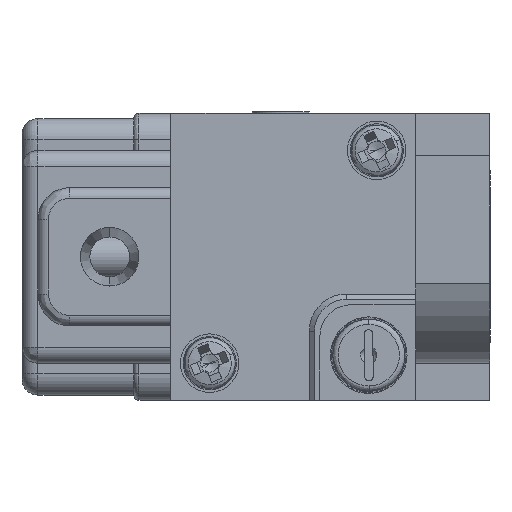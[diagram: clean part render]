
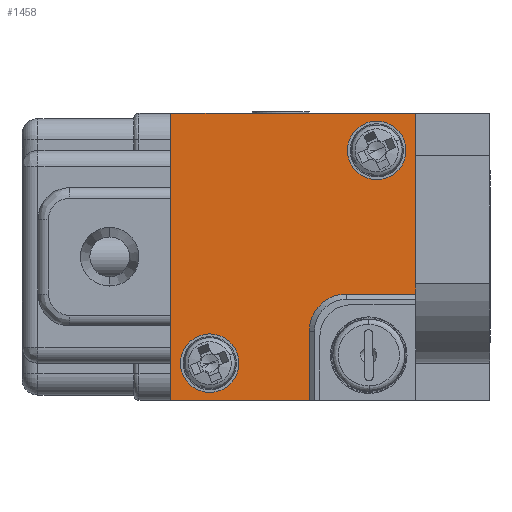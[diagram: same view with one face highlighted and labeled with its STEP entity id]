
A CAD part, left-side view. The second image highlights one B-rep face of the part: STEP entity #1458.
In plain terms, the highlighted planar face has unit normal (-1, 0, 0) as drawn and (0, 0, 1) by its records, which use the part's own axes.
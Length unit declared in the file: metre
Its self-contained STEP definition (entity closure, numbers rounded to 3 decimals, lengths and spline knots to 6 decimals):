
#211 = ORIENTED_EDGE ( 'NONE', *, *, #7012, .T. ) ;
#223 = DIRECTION ( 'NONE',  ( 0., -1., 0. ) ) ;
#230 = EDGE_CURVE ( 'NONE', #12460, #11134, #12202, .T. ) ;
#288 = DIRECTION ( 'NONE',  ( 0., 0., -1. ) ) ;
#761 = VERTEX_POINT ( 'NONE', #13373 ) ;
#784 = VECTOR ( 'NONE', #4219, 1. ) ;
#1019 = EDGE_CURVE ( 'NONE', #5869, #12460, #13477, .T. ) ;
#1125 = ORIENTED_EDGE ( 'NONE', *, *, #1019, .T. ) ;
#1458 = ADVANCED_FACE ( 'NONE', ( #5796, #8605, #3301 ), #3003, .T. ) ;
#1618 = ORIENTED_EDGE ( 'NONE', *, *, #5587, .T. ) ;
#1730 = LINE ( 'NONE', #13488, #7028 ) ;
#1744 = CIRCLE ( 'NONE', #12484, 0.00275 ) ;
#1819 = VECTOR ( 'NONE', #4242, 1. ) ;
#1946 = AXIS2_PLACEMENT_3D ( 'NONE', #4839, #4854, #4879 ) ;
#2242 = ORIENTED_EDGE ( 'NONE', *, *, #230, .T. ) ;
#2720 = CARTESIAN_POINT ( 'NONE',  ( -0.0035, 0.0325, 0.006 ) ) ;
#2840 = CARTESIAN_POINT ( 'NONE',  ( 0.0135, 0.021, 0.006 ) ) ;
#3003 = PLANE ( 'NONE',  #3968 ) ;
#3029 = CARTESIAN_POINT ( 'NONE',  ( -0.00725, 0.04035, 0.006 ) ) ;
#3146 = DIRECTION ( 'NONE',  ( 0., 0., 1. ) ) ;
#3233 = CARTESIAN_POINT ( 'NONE',  ( 0., 0.021, 0.006 ) ) ;
#3290 = DIRECTION ( 'NONE',  ( 0., 0., -1. ) ) ;
#3301 = FACE_OUTER_BOUND ( 'NONE', #9353, .T. ) ;
#3302 = ORIENTED_EDGE ( 'NONE', *, *, #8427, .T. ) ;
#3338 = DIRECTION ( 'NONE',  ( 1., 0., 0. ) ) ;
#3438 = CARTESIAN_POINT ( 'NONE',  ( -0.007, 0.031, 0.006 ) ) ;
#3445 = ORIENTED_EDGE ( 'NONE', *, *, #12925, .F. ) ;
#3705 = CARTESIAN_POINT ( 'NONE',  ( -0.0135, 0.044, 0.006 ) ) ;
#3968 = AXIS2_PLACEMENT_3D ( 'NONE', #7457, #9715, #3338 ) ;
#3986 = LINE ( 'NONE', #8446, #784 ) ;
#4168 = EDGE_CURVE ( 'NONE', #8955, #4835, #12285, .T. ) ;
#4219 = DIRECTION ( 'NONE',  ( 0., 1., 0. ) ) ;
#4242 = DIRECTION ( 'NONE',  ( 1., 0., 0. ) ) ;
#4400 = VECTOR ( 'NONE', #11241, 1. ) ;
#4699 = ORIENTED_EDGE ( 'NONE', *, *, #12046, .T. ) ;
#4733 = LINE ( 'NONE', #2720, #4400 ) ;
#4835 = VERTEX_POINT ( 'NONE', #12802 ) ;
#4839 = CARTESIAN_POINT ( 'NONE',  ( -0.01, 0.04035, 0.006 ) ) ;
#4854 = DIRECTION ( 'NONE',  ( 0., 0., 1. ) ) ;
#4879 = DIRECTION ( 'NONE',  ( 1., 0., 0. ) ) ;
#5273 = ORIENTED_EDGE ( 'NONE', *, *, #9875, .T. ) ;
#5353 = VECTOR ( 'NONE', #10664, 1. ) ;
#5587 = EDGE_CURVE ( 'NONE', #761, #6121, #13723, .T. ) ;
#5796 = FACE_BOUND ( 'NONE', #11566, .T. ) ;
#5829 = AXIS2_PLACEMENT_3D ( 'NONE', #6737, #288, #7804 ) ;
#5869 = VERTEX_POINT ( 'NONE', #10994 ) ;
#5912 = ORIENTED_EDGE ( 'NONE', *, *, #4168, .F. ) ;
#6121 = VERTEX_POINT ( 'NONE', #13607 ) ;
#6244 = VERTEX_POINT ( 'NONE', #10773 ) ;
#6308 = EDGE_CURVE ( 'NONE', #6678, #5869, #1730, .T. ) ;
#6678 = VERTEX_POINT ( 'NONE', #3705 ) ;
#6737 = CARTESIAN_POINT ( 'NONE',  ( 0.01, 0.02465, 0.006 ) ) ;
#6760 = CARTESIAN_POINT ( 'NONE',  ( 0.0135, 0.044, 0.006 ) ) ;
#7012 = EDGE_CURVE ( 'NONE', #12564, #6678, #8179, .T. ) ;
#7028 = VECTOR ( 'NONE', #223, 1. ) ;
#7194 = VERTEX_POINT ( 'NONE', #2840 ) ;
#7209 = CARTESIAN_POINT ( 'NONE',  ( 0.01, 0.02465, 0.006 ) ) ;
#7224 = DIRECTION ( 'NONE',  ( 0., 0., -1. ) ) ;
#7273 = DIRECTION ( 'NONE',  ( 1., 0., 0. ) ) ;
#7457 = CARTESIAN_POINT ( 'NONE',  ( -0.0135, 0.021, 0.006 ) ) ;
#7458 = VECTOR ( 'NONE', #9774, 1. ) ;
#7501 = EDGE_LOOP ( 'NONE', ( #8736, #1618 ) ) ;
#7706 = AXIS2_PLACEMENT_3D ( 'NONE', #7209, #7224, #7273 ) ;
#7768 = LINE ( 'NONE', #3233, #1819 ) ;
#7804 = DIRECTION ( 'NONE',  ( 1., 0., 0. ) ) ;
#8179 = LINE ( 'NONE', #10608, #5353 ) ;
#8261 = CIRCLE ( 'NONE', #5829, 0.00275 ) ;
#8407 = ORIENTED_EDGE ( 'NONE', *, *, #6308, .T. ) ;
#8427 = EDGE_CURVE ( 'NONE', #7194, #12564, #3986, .T. ) ;
#8446 = CARTESIAN_POINT ( 'NONE',  ( 0.0135, 0.0325, 0.006 ) ) ;
#8605 = FACE_BOUND ( 'NONE', #7501, .T. ) ;
#8736 = ORIENTED_EDGE ( 'NONE', *, *, #10076, .T. ) ;
#8955 = VERTEX_POINT ( 'NONE', #3029 ) ;
#9353 = EDGE_LOOP ( 'NONE', ( #211, #8407, #1125, #2242, #4699, #5273, #3302 ) ) ;
#9517 = CARTESIAN_POINT ( 'NONE',  ( -0.01, 0.04035, 0.006 ) ) ;
#9667 = CARTESIAN_POINT ( 'NONE',  ( -0.007, 0.0275, 0.006 ) ) ;
#9715 = DIRECTION ( 'NONE',  ( 0., 0., 1. ) ) ;
#9774 = DIRECTION ( 'NONE',  ( 1., 0., 0. ) ) ;
#9875 = EDGE_CURVE ( 'NONE', #6244, #7194, #7768, .T. ) ;
#10076 = EDGE_CURVE ( 'NONE', #6121, #761, #8261, .T. ) ;
#10608 = CARTESIAN_POINT ( 'NONE',  ( 0., 0.044, 0.006 ) ) ;
#10612 = DIRECTION ( 'NONE',  ( 1., 0., 0. ) ) ;
#10664 = DIRECTION ( 'NONE',  ( -1., 0., 0. ) ) ;
#10745 = DIRECTION ( 'NONE',  ( 0., 1., 0. ) ) ;
#10773 = CARTESIAN_POINT ( 'NONE',  ( -0.0035, 0.021, 0.006 ) ) ;
#10994 = CARTESIAN_POINT ( 'NONE',  ( -0.0135, 0.031, 0.006 ) ) ;
#11134 = VERTEX_POINT ( 'NONE', #11783 ) ;
#11241 = DIRECTION ( 'NONE',  ( 0., -1., 0. ) ) ;
#11566 = EDGE_LOOP ( 'NONE', ( #5912, #3445 ) ) ;
#11783 = CARTESIAN_POINT ( 'NONE',  ( -0.0035, 0.0275, 0.006 ) ) ;
#11944 = CARTESIAN_POINT ( 'NONE',  ( 0., 0.031, 0.006 ) ) ;
#12046 = EDGE_CURVE ( 'NONE', #11134, #6244, #4733, .T. ) ;
#12202 = CIRCLE ( 'NONE', #13430, 0.0035 ) ;
#12285 = CIRCLE ( 'NONE', #1946, 0.00275 ) ;
#12460 = VERTEX_POINT ( 'NONE', #3438 ) ;
#12484 = AXIS2_PLACEMENT_3D ( 'NONE', #9517, #3146, #10612 ) ;
#12564 = VERTEX_POINT ( 'NONE', #6760 ) ;
#12802 = CARTESIAN_POINT ( 'NONE',  ( -0.01275, 0.04035, 0.006 ) ) ;
#12925 = EDGE_CURVE ( 'NONE', #4835, #8955, #1744, .T. ) ;
#13373 = CARTESIAN_POINT ( 'NONE',  ( 0.00725, 0.02465, 0.006 ) ) ;
#13430 = AXIS2_PLACEMENT_3D ( 'NONE', #9667, #3290, #10745 ) ;
#13477 = LINE ( 'NONE', #11944, #7458 ) ;
#13488 = CARTESIAN_POINT ( 'NONE',  ( -0.0135, 0.0325, 0.006 ) ) ;
#13607 = CARTESIAN_POINT ( 'NONE',  ( 0.01275, 0.02465, 0.006 ) ) ;
#13723 = CIRCLE ( 'NONE', #7706, 0.00275 ) ;
